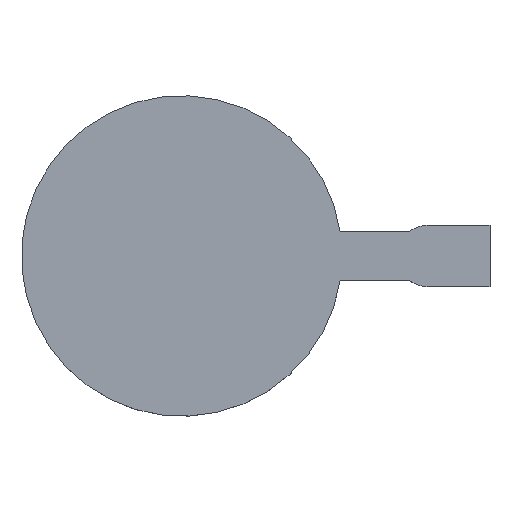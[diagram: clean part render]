
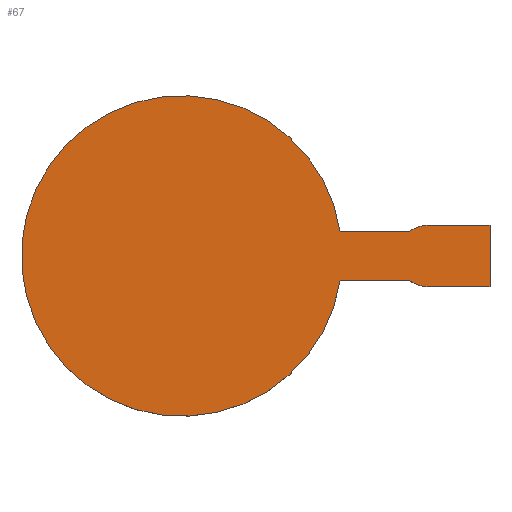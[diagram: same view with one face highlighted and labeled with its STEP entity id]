
A CAD part, top view. The second image highlights one B-rep face of the part: STEP entity #67.
In plain terms, the highlighted planar face has unit normal (0, 0, 1).
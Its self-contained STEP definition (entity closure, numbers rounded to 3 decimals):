
#67 = ADVANCED_FACE( '', ( #149 ), #150, .F. );
#149 = FACE_OUTER_BOUND( '', #247, .T. );
#150 = PLANE( '', #248 );
#247 = EDGE_LOOP( '', ( #370, #371, #372, #373, #374, #375, #376, #377 ) );
#248 = AXIS2_PLACEMENT_3D( '', #378, #379, #380 );
#370 = ORIENTED_EDGE( '', *, *, #554, .F. );
#371 = ORIENTED_EDGE( '', *, *, #535, .T. );
#372 = ORIENTED_EDGE( '', *, *, #532, .T. );
#373 = ORIENTED_EDGE( '', *, *, #561, .T. );
#374 = ORIENTED_EDGE( '', *, *, #562, .T. );
#375 = ORIENTED_EDGE( '', *, *, #563, .T. );
#376 = ORIENTED_EDGE( '', *, *, #564, .T. );
#377 = ORIENTED_EDGE( '', *, *, #547, .T. );
#378 = CARTESIAN_POINT( '', ( -125., 125., 0. ) );
#379 = DIRECTION( '', ( 0., 0., -1. ) );
#380 = DIRECTION( '', ( 0., 1., 0. ) );
#532 = EDGE_CURVE( '', #617, #615, #618, .T. );
#535 = EDGE_CURVE( '', #621, #617, #622, .T. );
#547 = EDGE_CURVE( '', #642, #640, #643, .T. );
#554 = EDGE_CURVE( '', #621, #640, #652, .T. );
#561 = EDGE_CURVE( '', #615, #663, #664, .T. );
#562 = EDGE_CURVE( '', #663, #665, #666, .T. );
#563 = EDGE_CURVE( '', #665, #667, #668, .T. );
#564 = EDGE_CURVE( '', #667, #642, #669, .T. );
#615 = VERTEX_POINT( '', #737 );
#617 = VERTEX_POINT( '', #740 );
#618 = CIRCLE( '', #741, 12.5 );
#621 = VERTEX_POINT( '', #745 );
#622 = LINE( '', #746, #747 );
#640 = VERTEX_POINT( '', #768 );
#642 = VERTEX_POINT( '', #771 );
#643 = LINE( '', #772, #773 );
#652 = LINE( '', #784, #785 );
#663 = VERTEX_POINT( '', #798 );
#664 = LINE( '', #799, #800 );
#665 = VERTEX_POINT( '', #801 );
#666 = CIRCLE( '', #802, 65. );
#667 = VERTEX_POINT( '', #803 );
#668 = LINE( '', #804, #805 );
#669 = CIRCLE( '', #806, 12.5 );
#737 = CARTESIAN_POINT( '', ( 92.5, 10., 0. ) );
#740 = CARTESIAN_POINT( '', ( 100., 12.5, 0. ) );
#741 = AXIS2_PLACEMENT_3D( '', #895, #896, #897 );
#745 = CARTESIAN_POINT( '', ( 125., 12.5, 0. ) );
#746 = CARTESIAN_POINT( '', ( 148.185, 12.5, 0. ) );
#747 = VECTOR( '', #899, 1000. );
#768 = CARTESIAN_POINT( '', ( 125., -12.5, 0. ) );
#771 = CARTESIAN_POINT( '', ( 100., -12.5, 0. ) );
#772 = CARTESIAN_POINT( '', ( 100., -12.5, 0. ) );
#773 = VECTOR( '', #916, 1000. );
#784 = CARTESIAN_POINT( '', ( 125., 125., 0. ) );
#785 = VECTOR( '', #925, 1000. );
#798 = CARTESIAN_POINT( '', ( 64.226, 10., 0. ) );
#799 = CARTESIAN_POINT( '', ( 100., 10., 0. ) );
#800 = VECTOR( '', #934, 1000. );
#801 = CARTESIAN_POINT( '', ( 64.226, -10., 0. ) );
#802 = AXIS2_PLACEMENT_3D( '', #935, #936, #937 );
#803 = CARTESIAN_POINT( '', ( 92.5, -10., 0. ) );
#804 = CARTESIAN_POINT( '', ( 0., -10., 0. ) );
#805 = VECTOR( '', #938, 1000. );
#806 = AXIS2_PLACEMENT_3D( '', #939, #940, #941 );
#895 = CARTESIAN_POINT( '', ( 100., 0., 0. ) );
#896 = DIRECTION( '', ( 0., 0., 1. ) );
#897 = DIRECTION( '', ( 0., 1., 0. ) );
#899 = DIRECTION( '', ( -1., 0., 0. ) );
#916 = DIRECTION( '', ( 1., 0., 0. ) );
#925 = DIRECTION( '', ( 0., -1., 0. ) );
#934 = DIRECTION( '', ( -1., 0., 0. ) );
#935 = CARTESIAN_POINT( '', ( 0., 0., 0. ) );
#936 = DIRECTION( '', ( 0., 0., 1. ) );
#937 = DIRECTION( '', ( 1., 0., 0. ) );
#938 = DIRECTION( '', ( 1., 0., 0. ) );
#939 = CARTESIAN_POINT( '', ( 100., 0., 0. ) );
#940 = DIRECTION( '', ( 0., 0., 1. ) );
#941 = DIRECTION( '', ( 0., 1., 0. ) );
